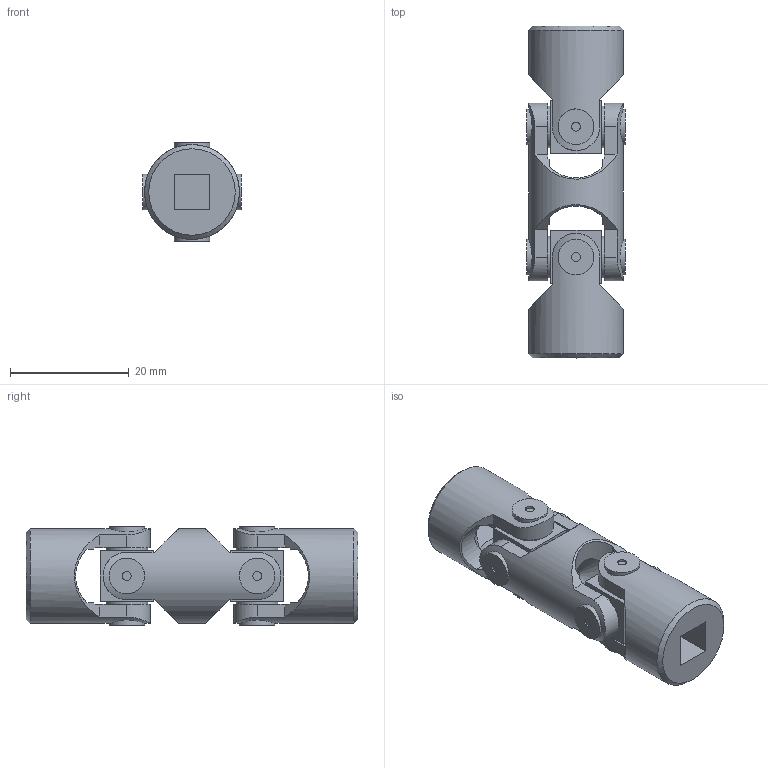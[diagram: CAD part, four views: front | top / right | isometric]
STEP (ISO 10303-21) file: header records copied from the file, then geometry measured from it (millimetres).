
FILE_DESCRIPTION(/* description */ (''),/* implementation_level */ '2;1');
FILE_NAME(/* name */ '\\SRV2016\Societa\Stefano\Disegni 3D\00Catalogo 3D\02Doppi GD-GBD\SG0D062Q.stp',/* time_stamp */ '2021-11-22T16:52:30+01:00',/* author */ ('acquisti'),/* organization */ (''),/* preprocessor_version */ 'ST-DEVELOPER v15.6',/* originating_system */ 'Autodesk Inventor 2015',/* authorisation */ '');
FILE_SCHEMA (('AUTOMOTIVE_DESIGN { 1 0 10303 214 3 1 1 }'));
Length unit declared in the file: millimetre
Products named in the file (4): 01G MOD; 01-02G SFE; 01G MOQ; Ø16_01GD-00_SG0D0600
Assembly tree (5 placements, depth 2):
  Ø16_01GD-00_SG0D0600
    01G MOD
    01-02G SFE  x2
    01G MOQ  x2
Bounding box: 16.7 x 56 x 16.7 mm (x, y, z)
Volume: 7688 mm3; surface area: 5624.9 mm2
Topology: 5 solids, 5 shells, 143 faces, 357 edges, 244 vertices
Faces by surface type: plane 78, cylinder 39, cone 22, torus 4
Full cylindrical faces by diameter (mm): 1.5 x8, 6 x8, 7 x8, 8.5 x4, 16 x3
Entity records: 3294 total; most frequent: CARTESIAN_POINT 1163, ORIENTED_EDGE 406, DIRECTION 404, EDGE_CURVE 203, AXIS2_PLACEMENT_3D 174, VERTEX_POINT 153, EDGE_LOOP 142, FACE_OUTER_BOUND 97
